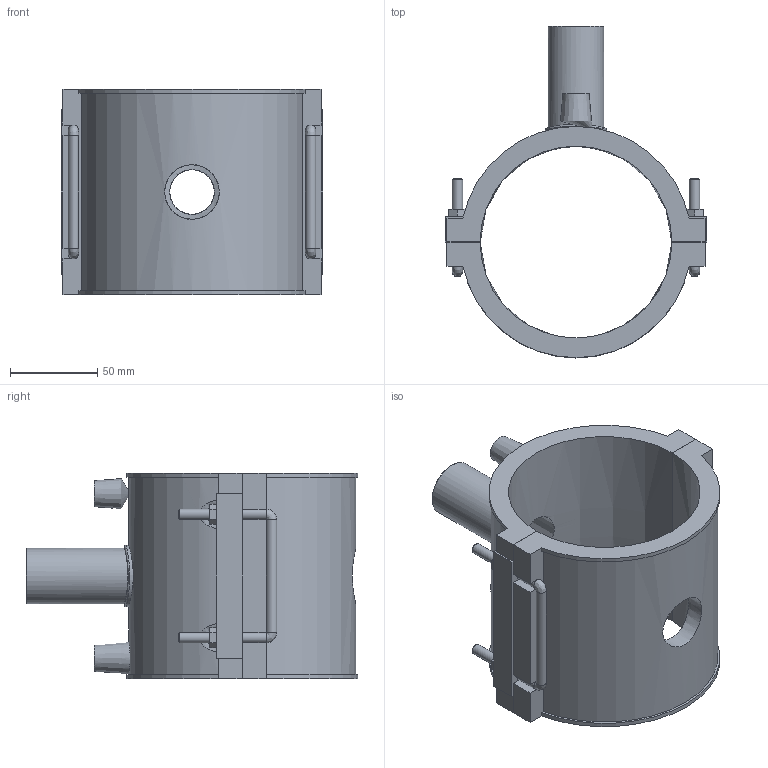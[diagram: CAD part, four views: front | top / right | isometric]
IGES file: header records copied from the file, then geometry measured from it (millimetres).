
Global section: file name: 495804110032.ipt; native system: Autodesk Inventor 2015; preprocessor: unknown; author: KIM; date: 20180426.120834; units: millimetre
Bounding box: 150 x 190.3 x 118 mm (x, y, z)
Volume: 529891.7 mm3; surface area: 132277.5 mm2
Topology: 2 solids, 2 shells, 133 faces, 340 edges, 214 vertices
Faces by surface type: plane 85, cylinder 22, revolution 10, bspline 9, cone 7
Full cylindrical faces by diameter (mm): 4 x2, 6 x10, 32 x1, 35.2 x1
